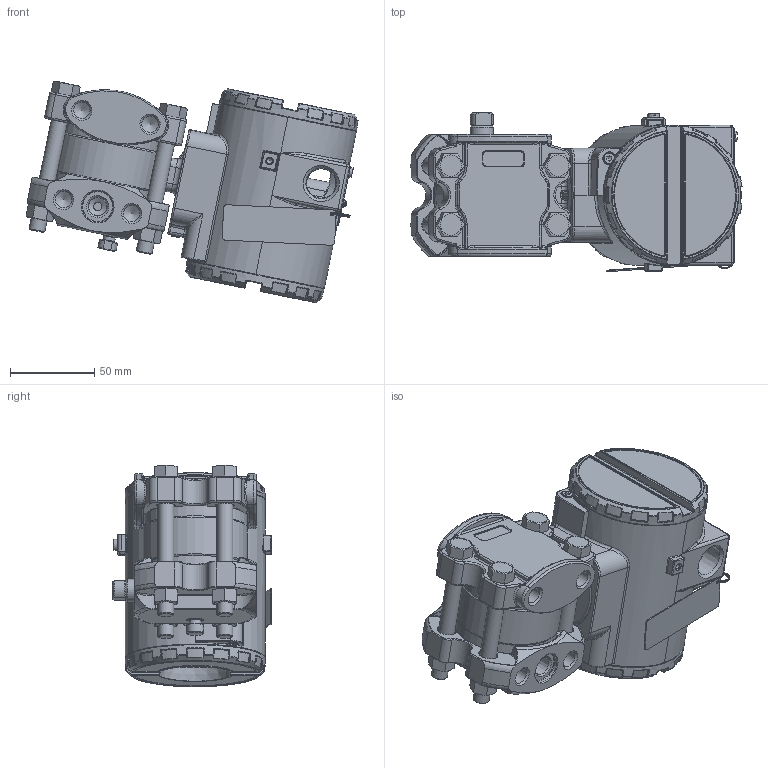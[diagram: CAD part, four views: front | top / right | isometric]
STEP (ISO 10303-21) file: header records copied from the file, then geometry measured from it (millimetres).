
FILE_DESCRIPTION(/* description */ (''),/* implementation_level */ '2;1');
FILE_NAME(/* name */ 'F:\Area\Desenvolvimento_2\Projects\Sensor\projetos\LD30X\montagens 3d - clientes\LD30XA0-3 1-4NPT Monel purga acima.stp',/* time_stamp */ '2023-01-26T17:36:13-03:00',/* author */ ('inventor02'),/* organization */ (''),/* preprocessor_version */ 'ST-DEVELOPER v17',/* originating_system */ 'Autodesk Inventor 2019',/* authorisation */ '');
FILE_SCHEMA (('CONFIG_CONTROL_DESIGN'));
Length unit declared in the file: millimetre
Products named in the file (30): LD30XA0-3 1-4NPT Monel purga acima; manometrico FX0-3 monel purga acima; involucro fx0-3 apos a usinagem final; 081-C-0500-10 monel barra 7-16 purga M8; 096-C-0014-13 manom reforçado; bujao 1-4NPT; Sangria; Paraf. 3-8 x 16 UNC; Porca 3-8 x 16 UNC; carcaça vazia com tampas e plaqueta; carcaça LD inox sem letras; Subconjunto plaqueta 300; Plaqueta transmissor; Parafuso da Plaqueta; Rebite da Plaqueta; 096-A-0169-03; 101-A-0502-01; Chapa aterramento externo; ISO 1207 - M4 x 8; DIN 915 - M6 x 10; ANSI B18.3.1M - M4x0,7 x 8; Subconjunto tampa com visor aluminio; tampa pintada; VIDRO DO VISOR; oring 41x1 vidro tampa; Trava do vidro da tampa com visor; trava do vidro VH256; Subconjunto tampa sem visor-aluminio; tampa cega 300 pintada p0; 00034775-0
Assembly tree (37 placements, depth 4):
  LD30XA0-3 1-4NPT Monel purga acima
    manometrico FX0-3 monel purga acima
      involucro fx0-3 apos a usinagem final
      081-C-0500-10 monel barra 7-16 purga M8
      096-C-0014-13 manom reforçado
      bujao 1-4NPT
      Sangria
      Paraf. 3-8 x 16 UNC  x4
      Porca 3-8 x 16 UNC  x4
    carcaça vazia com tampas e plaqueta
      carcaça LD inox sem letras
      Subconjunto plaqueta 300
        Plaqueta transmissor
        Parafuso da Plaqueta
        Rebite da Plaqueta
        096-A-0169-03
        101-A-0502-01
      Chapa aterramento externo
      ISO 1207 - M4 x 8
      DIN 915 - M6 x 10
      ANSI B18.3.1M - M4x0,7 x 8  x2
      Subconjunto tampa com visor aluminio
        tampa pintada
        VIDRO DO VISOR
        oring 41x1 vidro tampa
        Trava do vidro da tampa com visor
        trava do vidro VH256
        00034775-0
      Subconjunto tampa sem visor-aluminio
        tampa cega 300 pintada p0
        00034775-0
Bounding box: 197.06 x 94.6 x 131.45 mm (x, y, z)
Volume: 609718.5 mm3; surface area: 230864.5 mm2
Topology: 32 solids, 32 shells, 2323 faces, 5630 edges, 3338 vertices
Faces by surface type: bspline 588, cylinder 547, plane 458, torus 393, cone 230, sphere 107
Full cylindrical faces by diameter (mm): 2 x2, 2.1 x2, 2.459 x5, 2.642 x1, 2.7 x1, 3 x3, 3.242 x4, 3.5 x4, 3.571 x1, 4 x4, 4.3 x1, 4.4 x1, 4.917 x1, 5 x2, 5.5 x1, 6 x2, 6.647 x1, 7 x5, 7.087 x2, 7.6 x2, 7.798 x4, 8 x1, 8.7 x2, 9.525 x4, 9.728 x8, 10.5 x8, 10.719 x2, 12 x1, 13.8 x1, 14 x1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
Entity records: 83033 total; most frequent: CARTESIAN_POINT 32150, ORIENTED_EDGE 10670, DIRECTION 10250, EDGE_CURVE 5335, AXIS2_PLACEMENT_3D 4504, VERTEX_POINT 3204, CIRCLE 2672, EDGE_LOOP 2341
